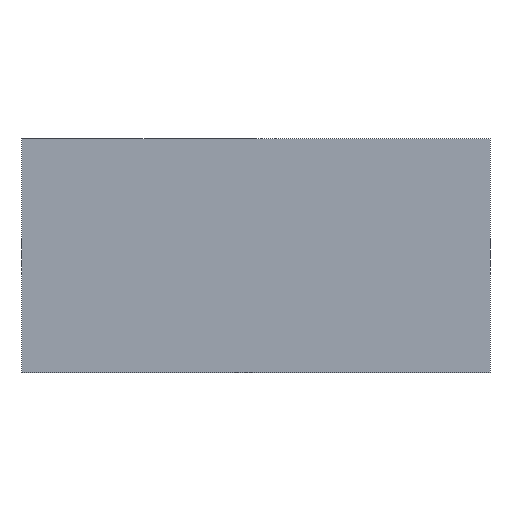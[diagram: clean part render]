
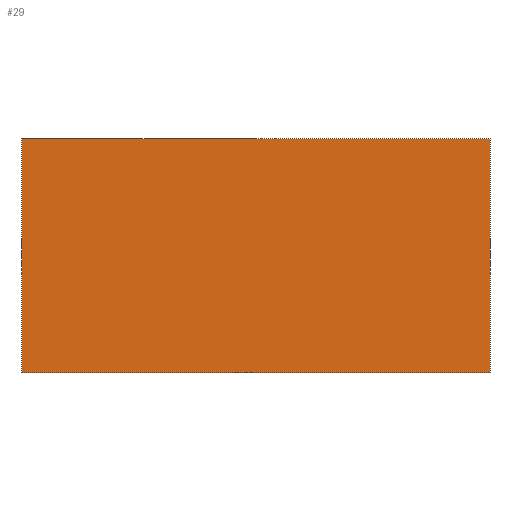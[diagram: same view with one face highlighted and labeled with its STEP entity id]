
A CAD part, front view. The second image highlights one B-rep face of the part: STEP entity #29.
In plain terms, the highlighted planar face has unit normal (0, -1, 0).
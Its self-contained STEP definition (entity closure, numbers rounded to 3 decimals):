
#17 = ORIENTED_EDGE ( 'NONE', *, *, #362, .T. ) ;
#25 = EDGE_CURVE ( 'NONE', #227, #157, #323, .T. ) ;
#29 = ADVANCED_FACE ( 'NONE', ( #101 ), #33, .F. ) ;
#33 = PLANE ( 'NONE',  #325 ) ;
#35 = EDGE_CURVE ( 'NONE', #344, #227, #465, .T. ) ;
#76 = DIRECTION ( 'NONE',  ( 1., 0., 0. ) ) ;
#80 = CARTESIAN_POINT ( 'NONE',  ( 24., -338.5, 12. ) ) ;
#93 = CARTESIAN_POINT ( 'NONE',  ( -24., -338.5, 12. ) ) ;
#98 = VECTOR ( 'NONE', #398, 1000. ) ;
#101 = FACE_OUTER_BOUND ( 'NONE', #117, .T. ) ;
#111 = LINE ( 'NONE', #401, #186 ) ;
#117 = EDGE_LOOP ( 'NONE', ( #17, #457, #445, #260 ) ) ;
#135 = CARTESIAN_POINT ( 'NONE',  ( 24., -338.5, 12. ) ) ;
#142 = CARTESIAN_POINT ( 'NONE',  ( -24., -338.5, 12. ) ) ;
#157 = VERTEX_POINT ( 'NONE', #426 ) ;
#158 = VECTOR ( 'NONE', #248, 1000. ) ;
#186 = VECTOR ( 'NONE', #76, 1000. ) ;
#212 = DIRECTION ( 'NONE',  ( 0., 1., 0. ) ) ;
#227 = VERTEX_POINT ( 'NONE', #80 ) ;
#248 = DIRECTION ( 'NONE',  ( 1., 0., 0. ) ) ;
#259 = CARTESIAN_POINT ( 'NONE',  ( -24., -338.5, 12. ) ) ;
#260 = ORIENTED_EDGE ( 'NONE', *, *, #446, .T. ) ;
#318 = VERTEX_POINT ( 'NONE', #432 ) ;
#320 = CARTESIAN_POINT ( 'NONE',  ( -24., -338.5, 12. ) ) ;
#323 = LINE ( 'NONE', #135, #98 ) ;
#325 = AXIS2_PLACEMENT_3D ( 'NONE', #320, #212, #427 ) ;
#344 = VERTEX_POINT ( 'NONE', #259 ) ;
#362 = EDGE_CURVE ( 'NONE', #318, #157, #111, .T. ) ;
#380 = DIRECTION ( 'NONE',  ( 0., 0., -1. ) ) ;
#398 = DIRECTION ( 'NONE',  ( 0., 0., -1. ) ) ;
#401 = CARTESIAN_POINT ( 'NONE',  ( -24., -338.5, -12. ) ) ;
#409 = VECTOR ( 'NONE', #380, 1000. ) ;
#426 = CARTESIAN_POINT ( 'NONE',  ( 24., -338.5, -12. ) ) ;
#427 = DIRECTION ( 'NONE',  ( 0., 0., 1. ) ) ;
#432 = CARTESIAN_POINT ( 'NONE',  ( -24., -338.5, -12. ) ) ;
#445 = ORIENTED_EDGE ( 'NONE', *, *, #35, .F. ) ;
#446 = EDGE_CURVE ( 'NONE', #344, #318, #453, .T. ) ;
#453 = LINE ( 'NONE', #93, #409 ) ;
#457 = ORIENTED_EDGE ( 'NONE', *, *, #25, .F. ) ;
#465 = LINE ( 'NONE', #142, #158 ) ;
